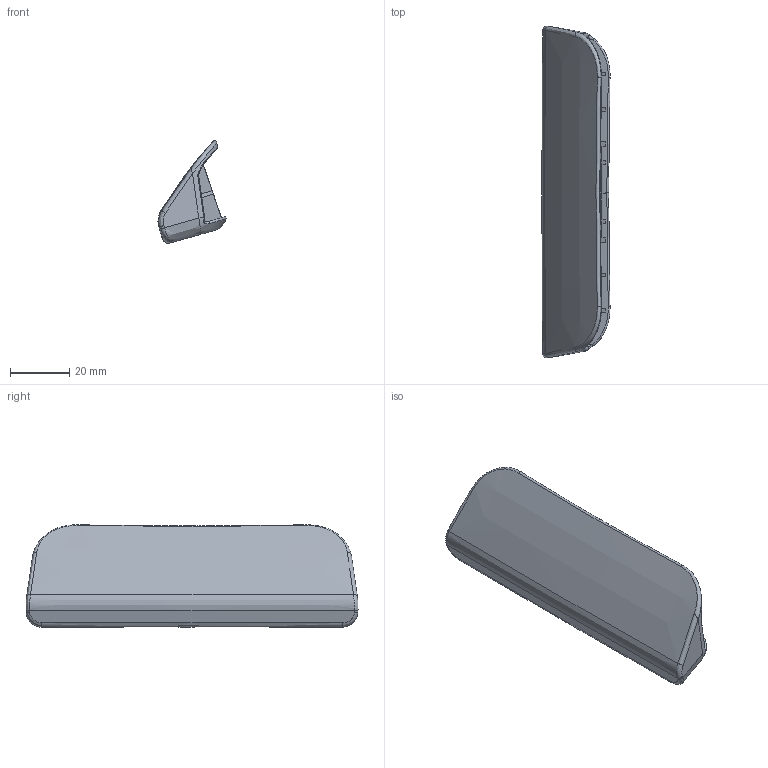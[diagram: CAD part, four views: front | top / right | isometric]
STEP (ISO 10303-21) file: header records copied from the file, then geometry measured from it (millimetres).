
FILE_DESCRIPTION(('CATIA V5 STEP Exchange','CAx-IF Rec.Pracs.--- Model Styling and Organization---1.4--- 2014-01-23'),'2;1');
FILE_NAME('C:\Users\luhaitao\Desktop\塑料件平台项目\塑料件样件清单\01.stp','2025-04-28T01:00:40+00:00',('none'),('none'),'CATIA Version 5-6 Release 2017','CATIA V5 STEP AP214','none');
FILE_SCHEMA(('AUTOMOTIVE_DESIGN { 1 0 10303 214 1 1 1 1 }'));
Length unit declared in the file: millimetre
Products named in the file (1): 01
Bounding box: 23.04 x 112.28 x 34.66 mm (x, y, z)
Volume: 20975.9 mm3; surface area: 19985.5 mm2
Topology: 1 solids, 1 shells, 229 faces, 689 edges, 459 vertices
Faces by surface type: bspline 135, plane 89, cylinder 3, sphere 2
Entity records: 14975 total; most frequent: CARTESIAN_POINT 10445, ORIENTED_EDGE 1374, EDGE_CURVE 687, VERTEX_POINT 459, B_SPLINE_CURVE_WITH_KNOTS 350, DIRECTION 308, EDGE_LOOP 230, ADVANCED_FACE 229
